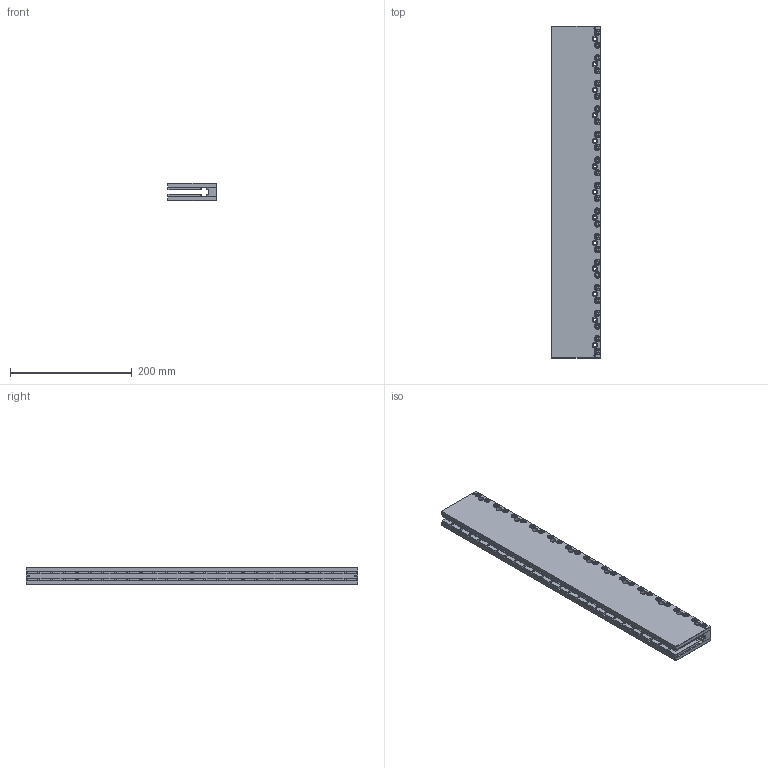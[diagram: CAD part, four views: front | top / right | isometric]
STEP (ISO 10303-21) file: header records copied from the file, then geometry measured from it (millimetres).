
FILE_DESCRIPTION( ( '-' ), '1' );
FILE_NAME( 'C:/Users/peikelboom/Desktop/STEP Files/Ironless/UL/Iron Less_UL 538 mm_MagnetYoke 160607.stp', '20-04-2016', ( 'P.Eikelboom' ), ( 'Technotion' ), 'PSStep 16.0.42', '-', ' ' );
FILE_SCHEMA( ( 'AUTOMOTIVE_DESIGN { 1 0 10303 214 1 1 1 1 }' ) );
Length unit declared in the file: millimetre
Products named in the file (1): 4022 363 82604_080709
Bounding box: 80 x 545.92 x 28.4 mm (x, y, z)
Surface area: 251223.4 mm2 (no closed solid volume)
Topology: 0 solids, 3213 shells, 3213 faces, 15457 edges, 15047 vertices
Faces by surface type: cylinder 1475, plane 1140, bspline 416, cone 182
Full cylindrical faces by diameter (mm): 3 x2, 3.242 x2, 4.2 x26, 5 x52, 5.5 x65, 9.2 x26, 9.3 x52
Entity records: 183630 total; most frequent: CARTESIAN_POINT 40150, DIRECTION 27296, ORIENTED_EDGE 14816, EDGE_CURVE 14816, VERTEX_POINT 14816, AXIS2_PLACEMENT_3D 9790, LINE 7716, VECTOR 7716
